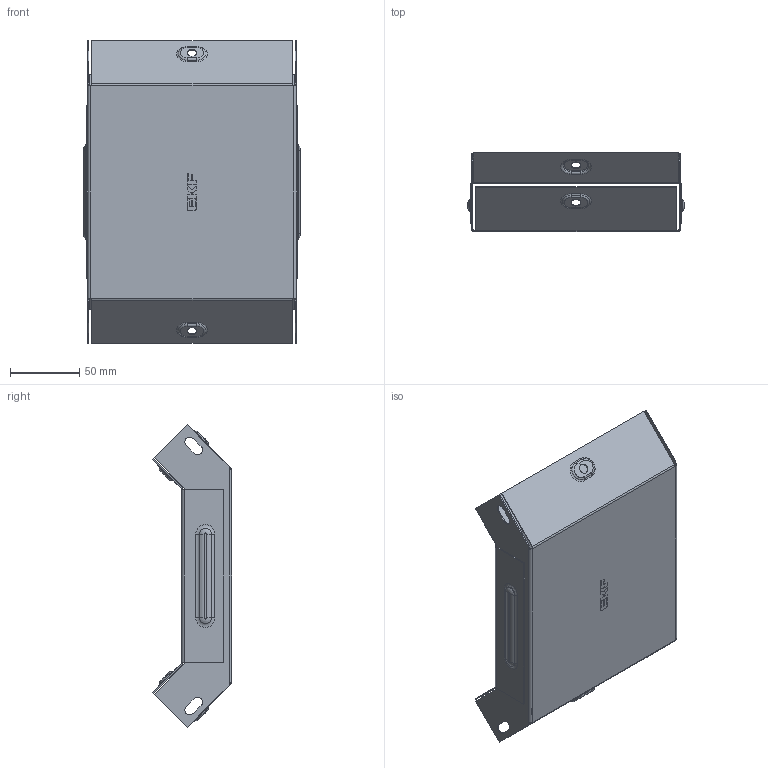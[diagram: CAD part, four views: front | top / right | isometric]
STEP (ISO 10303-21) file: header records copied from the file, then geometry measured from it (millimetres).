
FILE_DESCRIPTION (( 'STEP AP214' ), '1' );
FILE_NAME ('vi9035150_捘.STEP', '2019-06-10T09:20:03', ( '砐錪賧瘔蠈錪 Windows' ), ( '' ), 'SwSTEP 2.0', 'SolidWorks 2018', '' );
FILE_SCHEMA (( 'AUTOMOTIVE_DESIGN' ));
Length unit declared in the file: millimetre
Products named in the file (1): vi9035150_捘
Bounding box: 155.6 x 57.01 x 218.06 mm (x, y, z)
Volume: 68094.2 mm3; surface area: 171989.9 mm2
Topology: 2 solids, 2 shells, 416 faces, 1056 edges, 672 vertices
Faces by surface type: plane 222, cylinder 112, torus 64, bspline 18
Entity records: 13420 total; most frequent: CARTESIAN_POINT 3164, DIRECTION 2138, ORIENTED_EDGE 2112, EDGE_CURVE 1056, AXIS2_PLACEMENT_3D 719, LINE 700, VECTOR 700, VERTEX_POINT 672
